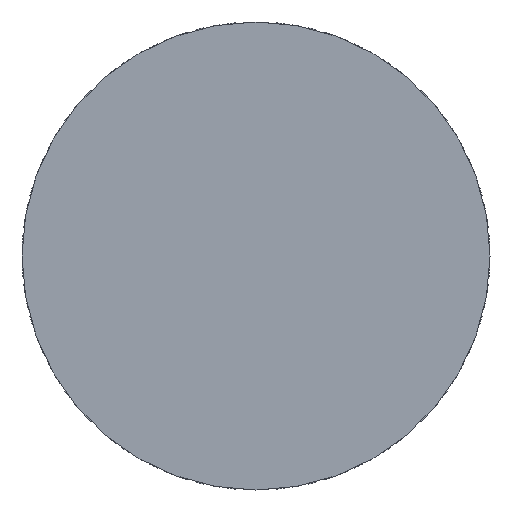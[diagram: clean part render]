
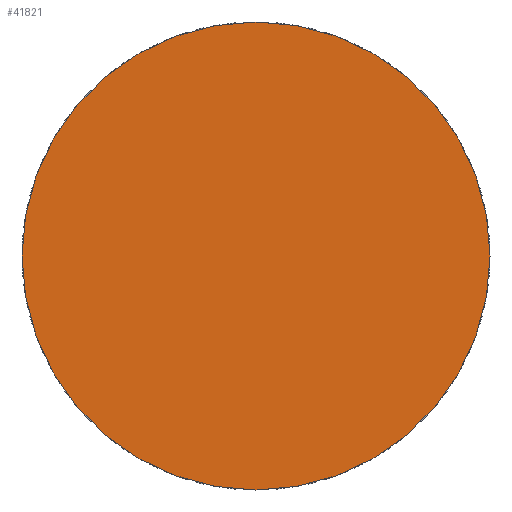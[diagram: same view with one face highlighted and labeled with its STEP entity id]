
A CAD part, front view. The second image highlights one B-rep face of the part: STEP entity #41821.
In plain terms, the highlighted planar face has unit normal (0, -1, 0) as drawn and (0, 0, 1) by its records, which use the part's own axes.
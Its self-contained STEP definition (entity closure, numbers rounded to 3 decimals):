
#39855=CARTESIAN_POINT('',(0.,0.,10.));
#39856=DIRECTION('',(0.,0.,1.));
#39857=DIRECTION('',(1.,0.,0.));
#39858=AXIS2_PLACEMENT_3D('',#39855,#39856,#39857);
#39860=CARTESIAN_POINT('',(0.,0.,10.));
#39861=DIRECTION('',(0.,0.,1.));
#39862=DIRECTION('',(-1.,0.,0.));
#39863=AXIS2_PLACEMENT_3D('',#39860,#39861,#39862);
#41670=CARTESIAN_POINT('',(14.5,0.,10.));
#41671=CARTESIAN_POINT('',(-14.5,0.,10.));
#41672=VERTEX_POINT('',#41670);
#41673=VERTEX_POINT('',#41671);
#41812=CARTESIAN_POINT('',(0.,0.,10.));
#41813=DIRECTION('',(0.,0.,1.));
#41814=DIRECTION('',(1.,0.,0.));
#41815=AXIS2_PLACEMENT_3D('',#41812,#41813,#41814);
#41816=PLANE('',#41815);
#41817=ORIENTED_EDGE('',*,*,#41792,.F.);
#41818=ORIENTED_EDGE('',*,*,#41806,.F.);
#41819=EDGE_LOOP('',(#41817,#41818));
#41820=FACE_OUTER_BOUND('',#41819,.F.);
#41821=ADVANCED_FACE('',(#41820),#41816,.T.);
#39859=CIRCLE('',#39858,14.5);
#39864=CIRCLE('',#39863,14.5);
#41792=EDGE_CURVE('',#41672,#41673,#39859,.T.);
#41806=EDGE_CURVE('',#41673,#41672,#39864,.T.);
